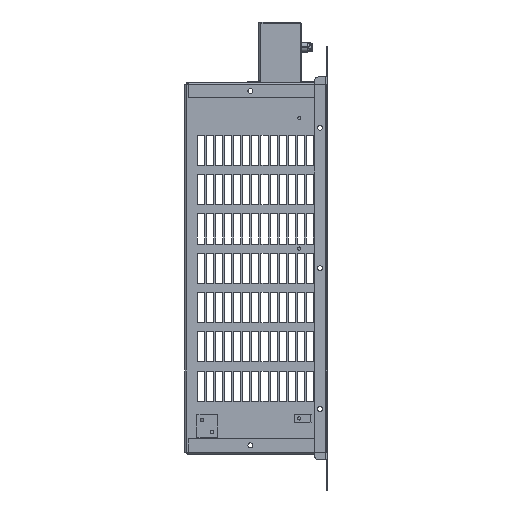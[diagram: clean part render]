
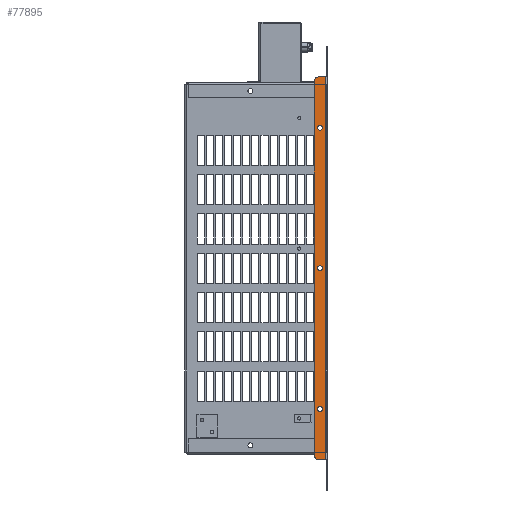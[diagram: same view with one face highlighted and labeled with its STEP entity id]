
A CAD part, left-side view. The second image highlights one B-rep face of the part: STEP entity #77895.
In plain terms, the highlighted planar face has unit normal (-1, 0, 0).
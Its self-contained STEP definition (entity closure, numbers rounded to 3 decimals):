
#3197=FACE_BOUND('',#14482,.T.);
#3198=FACE_BOUND('',#14483,.T.);
#3199=FACE_BOUND('',#14484,.T.);
#5975=PLANE('',#81341);
#9607=FACE_OUTER_BOUND('',#14481,.T.);
#14481=EDGE_LOOP('',(#70327,#70328,#70329,#70330,#70331,#70332));
#14482=EDGE_LOOP('',(#70333));
#14483=EDGE_LOOP('',(#70334));
#14484=EDGE_LOOP('',(#70335));
#23144=LINE('',#126221,#31798);
#23149=LINE('',#126236,#31803);
#23150=LINE('',#126238,#31804);
#23151=LINE('',#126239,#31805);
#31798=VECTOR('',#96842,10.);
#31803=VECTOR('',#96857,10.);
#31804=VECTOR('',#96858,10.);
#31805=VECTOR('',#96859,10.);
#32224=CIRCLE('',#81290,2.5);
#32228=CIRCLE('',#81296,2.5);
#32232=CIRCLE('',#81302,2.5);
#32250=CIRCLE('',#81335,5.);
#32252=CIRCLE('',#81340,5.);
#39152=VERTEX_POINT('',#126056);
#39156=VERTEX_POINT('',#126066);
#39160=VERTEX_POINT('',#126076);
#39213=VERTEX_POINT('',#126211);
#39214=VERTEX_POINT('',#126213);
#39216=VERTEX_POINT('',#126219);
#39220=VERTEX_POINT('',#126231);
#39221=VERTEX_POINT('',#126235);
#39222=VERTEX_POINT('',#126237);
#49520=EDGE_CURVE('',#39152,#39152,#32224,.T.);
#49524=EDGE_CURVE('',#39156,#39156,#32228,.T.);
#49528=EDGE_CURVE('',#39160,#39160,#32232,.T.);
#49596=EDGE_CURVE('',#39213,#39214,#32250,.T.);
#49600=EDGE_CURVE('',#39216,#39213,#23144,.T.);
#49605=EDGE_CURVE('',#39220,#39216,#32252,.T.);
#49607=EDGE_CURVE('',#39220,#39221,#23149,.T.);
#49608=EDGE_CURVE('',#39222,#39221,#23150,.T.);
#49609=EDGE_CURVE('',#39222,#39214,#23151,.T.);
#70327=ORIENTED_EDGE('',*,*,#49596,.F.);
#70328=ORIENTED_EDGE('',*,*,#49600,.F.);
#70329=ORIENTED_EDGE('',*,*,#49605,.F.);
#70330=ORIENTED_EDGE('',*,*,#49607,.T.);
#70331=ORIENTED_EDGE('',*,*,#49608,.F.);
#70332=ORIENTED_EDGE('',*,*,#49609,.T.);
#70333=ORIENTED_EDGE('',*,*,#49520,.T.);
#70334=ORIENTED_EDGE('',*,*,#49524,.T.);
#70335=ORIENTED_EDGE('',*,*,#49528,.T.);
#77895=ADVANCED_FACE('',(#9607,#3197,#3198,#3199),#5975,.T.);
#81290=AXIS2_PLACEMENT_3D('',#126057,#96695,#96696);
#81296=AXIS2_PLACEMENT_3D('',#126067,#96707,#96708);
#81302=AXIS2_PLACEMENT_3D('',#126077,#96719,#96720);
#81335=AXIS2_PLACEMENT_3D('',#126214,#96835,#96836);
#81340=AXIS2_PLACEMENT_3D('',#126232,#96852,#96853);
#81341=AXIS2_PLACEMENT_3D('',#126234,#96855,#96856);
#96695=DIRECTION('center_axis',(1.,0.,0.));
#96696=DIRECTION('ref_axis',(0.,-1.,0.));
#96707=DIRECTION('center_axis',(1.,0.,0.));
#96708=DIRECTION('ref_axis',(0.,-1.,0.));
#96719=DIRECTION('center_axis',(1.,0.,0.));
#96720=DIRECTION('ref_axis',(0.,-1.,0.));
#96835=DIRECTION('center_axis',(1.,0.,0.));
#96836=DIRECTION('ref_axis',(0.,0.707,0.707));
#96842=DIRECTION('',(0.,0.,1.));
#96852=DIRECTION('center_axis',(1.,0.,0.));
#96853=DIRECTION('ref_axis',(0.,0.707,-0.707));
#96855=DIRECTION('center_axis',(-1.,0.,0.));
#96856=DIRECTION('ref_axis',(0.,-1.,0.));
#96857=DIRECTION('',(0.,-1.,0.));
#96858=DIRECTION('',(0.,0.,-1.));
#96859=DIRECTION('',(0.,1.,0.));
#126056=CARTESIAN_POINT('',(-154.45,3.1,-139.5));
#126057=CARTESIAN_POINT('Origin',(-154.45,0.6,-139.5));
#126066=CARTESIAN_POINT('',(-154.45,3.1,139.5));
#126067=CARTESIAN_POINT('Origin',(-154.45,0.6,139.5));
#126076=CARTESIAN_POINT('',(-154.45,3.1,0.));
#126077=CARTESIAN_POINT('Origin',(-154.45,0.6,0.));
#126211=CARTESIAN_POINT('',(-154.45,6.5,185.));
#126213=CARTESIAN_POINT('',(-154.45,1.5,190.));
#126214=CARTESIAN_POINT('Origin',(-154.45,1.5,185.));
#126219=CARTESIAN_POINT('',(-154.45,6.5,-185.));
#126221=CARTESIAN_POINT('',(-154.45,6.5,0.));
#126231=CARTESIAN_POINT('',(-154.45,1.5,-190.));
#126232=CARTESIAN_POINT('Origin',(-154.45,1.5,-185.));
#126234=CARTESIAN_POINT('Origin',(-154.45,6.5,0.));
#126235=CARTESIAN_POINT('',(-154.45,-5.,-190.));
#126236=CARTESIAN_POINT('',(-154.45,0.,-190.));
#126237=CARTESIAN_POINT('',(-154.45,-5.,190.));
#126238=CARTESIAN_POINT('',(-154.45,-5.,0.));
#126239=CARTESIAN_POINT('',(-154.45,0.,190.));
